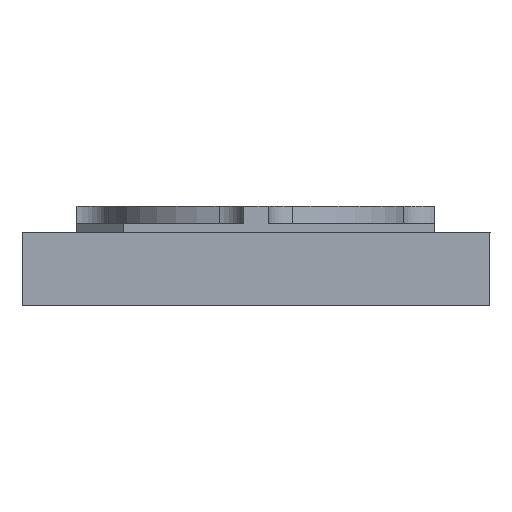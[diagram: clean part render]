
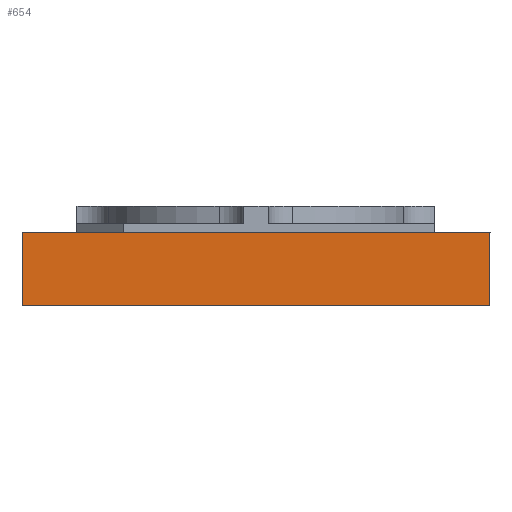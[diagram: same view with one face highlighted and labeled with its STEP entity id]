
A CAD part, front view. The second image highlights one B-rep face of the part: STEP entity #654.
In plain terms, the highlighted planar face has unit normal (0, -1, 0) as drawn and (-1, 0, 0) by its records, which use the part's own axes.
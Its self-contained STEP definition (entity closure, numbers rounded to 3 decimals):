
#654 = ADVANCED_FACE ( 'NONE', ( #19637 ), #6549, .F. ) ;
#1947 = EDGE_CURVE ( 'NONE', #14070, #13053, #19940, .T. ) ;
#4227 = VERTEX_POINT ( 'NONE', #20019 ) ;
#4853 = DIRECTION ( 'NONE',  ( 0., 1., 0. ) ) ;
#5548 = CARTESIAN_POINT ( 'NONE',  ( 25.814, 25.82, -3.125 ) ) ;
#5892 = CARTESIAN_POINT ( 'NONE',  ( 25.814, 45.814, -3.125 ) ) ;
#6066 = CARTESIAN_POINT ( 'NONE',  ( 25.814, 0., 0. ) ) ;
#6539 = VERTEX_POINT ( 'NONE', #25336 ) ;
#6549 = PLANE ( 'NONE',  #7972 ) ;
#7285 = CARTESIAN_POINT ( 'NONE',  ( 25.814, 25.82, -3.125 ) ) ;
#7935 = LINE ( 'NONE', #6066, #10065 ) ;
#7972 = AXIS2_PLACEMENT_3D ( 'NONE', #27195, #11159, #27102 ) ;
#8100 = CARTESIAN_POINT ( 'NONE',  ( 25.814, 45.814, -3.125 ) ) ;
#8441 = ORIENTED_EDGE ( 'NONE', *, *, #10016, .F. ) ;
#8843 = LINE ( 'NONE', #5892, #20203 ) ;
#9335 = ORIENTED_EDGE ( 'NONE', *, *, #28751, .T. ) ;
#10016 = EDGE_CURVE ( 'NONE', #13053, #4227, #8843, .T. ) ;
#10065 = VECTOR ( 'NONE', #29123, 1000. ) ;
#11159 = DIRECTION ( 'NONE',  ( 1., 0., 0. ) ) ;
#13053 = VERTEX_POINT ( 'NONE', #8100 ) ;
#14070 = VERTEX_POINT ( 'NONE', #7285 ) ;
#15311 = EDGE_CURVE ( 'NONE', #6539, #4227, #7935, .T. ) ;
#16711 = DIRECTION ( 'NONE',  ( 0., 0., 1. ) ) ;
#17348 = DIRECTION ( 'NONE',  ( 0., 0., 1. ) ) ;
#18150 = ORIENTED_EDGE ( 'NONE', *, *, #15311, .T. ) ;
#19637 = FACE_OUTER_BOUND ( 'NONE', #28681, .T. ) ;
#19940 = LINE ( 'NONE', #20875, #26779 ) ;
#20019 = CARTESIAN_POINT ( 'NONE',  ( 25.814, 45.814, 0. ) ) ;
#20203 = VECTOR ( 'NONE', #17348, 1000. ) ;
#20274 = LINE ( 'NONE', #5548, #28890 ) ;
#20875 = CARTESIAN_POINT ( 'NONE',  ( 25.814, 0., -3.125 ) ) ;
#25248 = ORIENTED_EDGE ( 'NONE', *, *, #1947, .F. ) ;
#25336 = CARTESIAN_POINT ( 'NONE',  ( 25.814, 25.82, 0. ) ) ;
#26779 = VECTOR ( 'NONE', #4853, 1000. ) ;
#27102 = DIRECTION ( 'NONE',  ( 0., 1., 0. ) ) ;
#27195 = CARTESIAN_POINT ( 'NONE',  ( 25.814, 0., -3.125 ) ) ;
#28681 = EDGE_LOOP ( 'NONE', ( #18150, #8441, #25248, #9335 ) ) ;
#28751 = EDGE_CURVE ( 'NONE', #14070, #6539, #20274, .T. ) ;
#28890 = VECTOR ( 'NONE', #16711, 1000. ) ;
#29123 = DIRECTION ( 'NONE',  ( 0., 1., 0. ) ) ;
